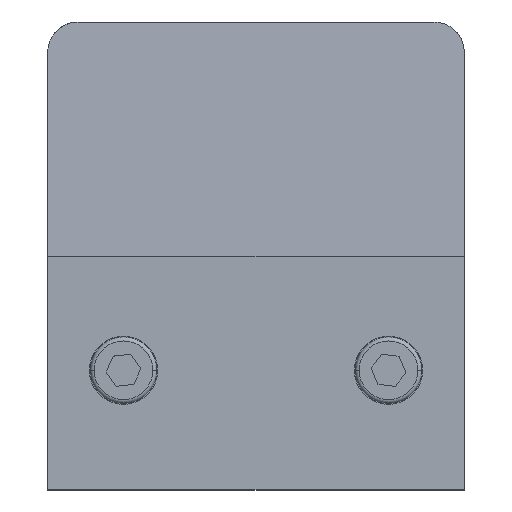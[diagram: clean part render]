
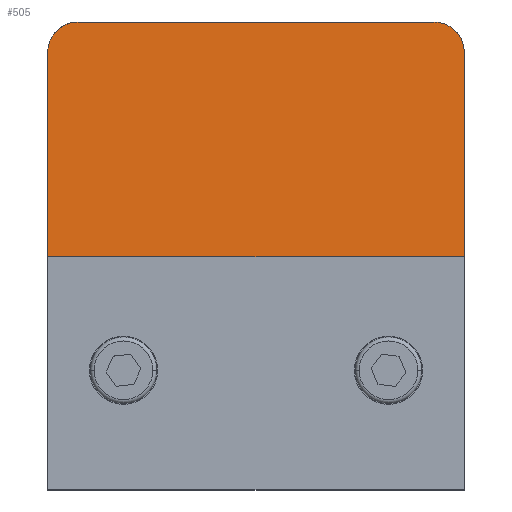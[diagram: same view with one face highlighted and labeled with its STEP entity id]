
A CAD part, top view. The second image highlights one B-rep face of the part: STEP entity #505.
In plain terms, the highlighted planar face has unit normal (0, 0.064, 0.998).
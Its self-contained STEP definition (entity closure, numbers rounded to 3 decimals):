
#16 = PLANE ( 'NONE',  #595 ) ;
#20 = CARTESIAN_POINT ( 'NONE',  ( -25.843, 37.5, 21.5 ) ) ;
#58 = VERTEX_POINT ( 'NONE', #3012 ) ;
#71 = CARTESIAN_POINT ( 'NONE',  ( 25.843, 37.5, 21.5 ) ) ;
#74 = ORIENTED_EDGE ( 'NONE', *, *, #1527, .T. ) ;
#97 = EDGE_LOOP ( 'NONE', ( #1281, #74, #301, #3219, #564, #2462 ) ) ;
#104 = CARTESIAN_POINT ( 'NONE',  ( 23.5, 37.5, 21.5 ) ) ;
#257 = EDGE_CURVE ( 'NONE', #3165, #58, #2641, .T. ) ;
#301 = ORIENTED_EDGE ( 'NONE', *, *, #2197, .T. ) ;
#366 = LINE ( 'NONE', #3030, #1849 ) ;
#505 = ADVANCED_FACE ( 'NONE', ( #1549 ), #16, .F. ) ;
#555 = CARTESIAN_POINT ( 'NONE',  ( -27.5, 33.5, 21.758 ) ) ;
#564 = ORIENTED_EDGE ( 'NONE', *, *, #842, .F. ) ;
#595 = AXIS2_PLACEMENT_3D ( 'NONE', #2595, #1046, #776 ) ;
#702 = VECTOR ( 'NONE', #1910, 1000. ) ;
#776 = DIRECTION ( 'NONE',  ( 0., 0.998, -0.064 ) ) ;
#816 = DIRECTION ( 'NONE',  ( -1., 0., 0. ) ) ;
#842 = EDGE_CURVE ( 'NONE', #3165, #3377, #366, .T. ) ;
#861 = CARTESIAN_POINT ( 'NONE',  ( -27.5, 37.5, 21.5 ) ) ;
#1046 = DIRECTION ( 'NONE',  ( 0., -0.064, -0.998 ) ) ;
#1101 = LINE ( 'NONE', #861, #702 ) ;
#1188 = EDGE_CURVE ( 'NONE', #3377, #2800, #1326, .T. ) ;
#1281 = ORIENTED_EDGE ( 'NONE', *, *, #2596, .T. ) ;
#1326 = LINE ( 'NONE', #2411, #2658 ) ;
#1374 = DIRECTION ( 'NONE',  ( -1., 0., 0. ) ) ;
#1527 = EDGE_CURVE ( 'NONE', #2344, #1710, #2182, .T. ) ;
#1549 = FACE_OUTER_BOUND ( 'NONE', #97, .T. ) ;
#1607 = VECTOR ( 'NONE', #1374, 1000. ) ;
#1710 = VERTEX_POINT ( 'NONE', #3019 ) ;
#1849 = VECTOR ( 'NONE', #2244, 1000. ) ;
#1850 = LINE ( 'NONE', #2159, #1607 ) ;
#1910 = DIRECTION ( 'NONE',  ( 0., -0.998, 0.064 ) ) ;
#2108 = CARTESIAN_POINT ( 'NONE',  ( -23.5, 37.5, 21.5 ) ) ;
#2159 = CARTESIAN_POINT ( 'NONE',  ( 27.5, 37.5, 21.5 ) ) ;
#2161 = CARTESIAN_POINT ( 'NONE',  ( -27.5, 6.5, 23.5 ) ) ;
#2182 =( BOUNDED_CURVE ( )  B_SPLINE_CURVE ( 3, ( #2108, #20, #2710, #555 ),
 .UNSPECIFIED., .F., .T. ) 
 B_SPLINE_CURVE_WITH_KNOTS ( ( 4, 4 ),
 ( 3.142, 4.712 ),
 .UNSPECIFIED. ) 
 CURVE ( )  GEOMETRIC_REPRESENTATION_ITEM ( )  RATIONAL_B_SPLINE_CURVE ( ( 1., 0.805, 0.805, 1. ) ) 
 REPRESENTATION_ITEM ( '' )  );
#2196 = CARTESIAN_POINT ( 'NONE',  ( 27.5, 6.5, 23.5 ) ) ;
#2197 = EDGE_CURVE ( 'NONE', #1710, #2800, #1101, .T. ) ;
#2238 = CARTESIAN_POINT ( 'NONE',  ( -23.5, 37.5, 21.5 ) ) ;
#2244 = DIRECTION ( 'NONE',  ( 0., -0.998, 0.064 ) ) ;
#2344 = VERTEX_POINT ( 'NONE', #2238 ) ;
#2405 = CARTESIAN_POINT ( 'NONE',  ( 27.5, 35.843, 21.607 ) ) ;
#2411 = CARTESIAN_POINT ( 'NONE',  ( 27.5, 6.5, 23.5 ) ) ;
#2462 = ORIENTED_EDGE ( 'NONE', *, *, #257, .T. ) ;
#2595 = CARTESIAN_POINT ( 'NONE',  ( 27.5, 37.5, 21.5 ) ) ;
#2596 = EDGE_CURVE ( 'NONE', #58, #2344, #1850, .T. ) ;
#2641 =( BOUNDED_CURVE ( )  B_SPLINE_CURVE ( 3, ( #3182, #2405, #71, #104 ),
 .UNSPECIFIED., .F., .T. ) 
 B_SPLINE_CURVE_WITH_KNOTS ( ( 4, 4 ),
 ( 4.712, 6.283 ),
 .UNSPECIFIED. ) 
 CURVE ( )  GEOMETRIC_REPRESENTATION_ITEM ( )  RATIONAL_B_SPLINE_CURVE ( ( 1., 0.805, 0.805, 1. ) ) 
 REPRESENTATION_ITEM ( '' )  );
#2658 = VECTOR ( 'NONE', #816, 1000. ) ;
#2710 = CARTESIAN_POINT ( 'NONE',  ( -27.5, 35.843, 21.607 ) ) ;
#2800 = VERTEX_POINT ( 'NONE', #2161 ) ;
#2848 = CARTESIAN_POINT ( 'NONE',  ( 27.5, 33.5, 21.758 ) ) ;
#3012 = CARTESIAN_POINT ( 'NONE',  ( 23.5, 37.5, 21.5 ) ) ;
#3019 = CARTESIAN_POINT ( 'NONE',  ( -27.5, 33.5, 21.758 ) ) ;
#3030 = CARTESIAN_POINT ( 'NONE',  ( 27.5, 37.5, 21.5 ) ) ;
#3165 = VERTEX_POINT ( 'NONE', #2848 ) ;
#3182 = CARTESIAN_POINT ( 'NONE',  ( 27.5, 33.5, 21.758 ) ) ;
#3219 = ORIENTED_EDGE ( 'NONE', *, *, #1188, .F. ) ;
#3377 = VERTEX_POINT ( 'NONE', #2196 ) ;
